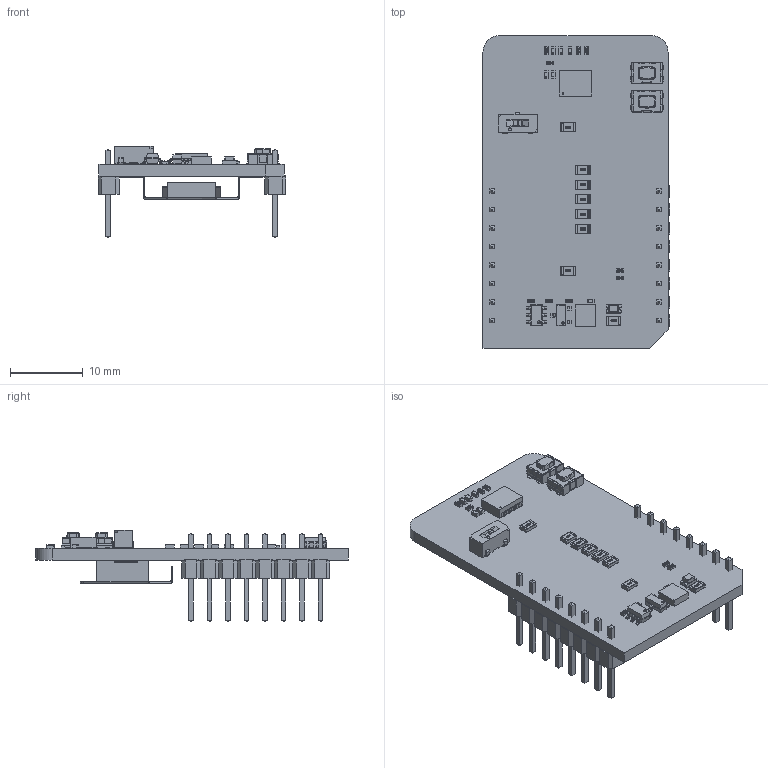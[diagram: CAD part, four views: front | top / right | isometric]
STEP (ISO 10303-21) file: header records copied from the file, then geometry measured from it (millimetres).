
FILE_DESCRIPTION(('Open CASCADE Model'),'2;1');
FILE_NAME('Open CASCADE Shape Model','2025-11-25T16:01:26',('Author'),( 'Open CASCADE'),'Open CASCADE STEP processor 7.5','Open CASCADE 7.5' ,'Unknown');
FILE_SCHEMA(('AUTOMOTIVE_DESIGN { 1 0 10303 214 1 1 1 1 }'));
Length unit declared in the file: millimetre
Products named in the file (61): PCB; Board; Open CASCADE STEP translator 7.5 2.1.1; U3; SON_131TFY_NXP; T2; User Library-Switch-CK-KMR2; User Library-Switch-CK-KMR2_Button; User Library-Switch-CK-KMR2_Boitier; User Library-Switch-CK-KMR2_Tole; User Library-Switch-CK-KMR2_Pads; T1; SW1; Cas-120a1; User Library-cas-120a1_cas-120 body; User Library-cas-120a1_cas-120 actuator; User Library-cas-120a1_lead; R9; User Library-R_0402; R7; R6; R5; R10; JP4; User Library-R_0805; JP3; JP5; JP6; JP7; JP2; C4; User Library-SMD CAPACITOR0402; C3; C2; BAT1; Battery Holder CR1220; U2; User Library-SOT23-6-2; U1; 7491637056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
Assembly tree (85 placements, depth 7):
  PCB
    Board
      Open CASCADE STEP translator 7.5 2.1.1
    U3
      SON_131TFY_NXP
    T2
      User Library-Switch-CK-KMR2
        User Library-Switch-CK-KMR2_Button
        User Library-Switch-CK-KMR2_Boitier
        User Library-Switch-CK-KMR2_Tole
        User Library-Switch-CK-KMR2_Pads
    T1
      User Library-Switch-CK-KMR2
        User Library-Switch-CK-KMR2_Button
        User Library-Switch-CK-KMR2_Boitier
        User Library-Switch-CK-KMR2_Tole
        User Library-Switch-CK-KMR2_Pads
    SW1
      Cas-120a1
        User Library-cas-120a1_cas-120 body
        User Library-cas-120a1_cas-120 actuator
        User Library-cas-120a1_lead  x3
    R9
      User Library-R_0402
    R7
      User Library-R_0402
    R6
      User Library-R_0402
    R5
      User Library-R_0402
    R10
      User Library-R_0402
    JP4
      User Library-R_0805
    JP3
      User Library-R_0805
    JP5
      User Library-R_0805
    JP6
      User Library-R_0805
    JP7
      User Library-R_0805
    JP2
      User Library-R_0805
    C4
      User Library-SMD CAPACITOR0402
    C3
      User Library-SMD CAPACITOR0402
    C2
      User Library-SMD CAPACITOR0402
    BAT1
      Battery Holder CR1220
    U2
      User Library-SOT23-6-2
    U1
      7491637056
        Extruded
    Q1
      SOT23-3
    R4
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Bounding box: 25.78 x 42.93 x 12.61 mm (x, y, z)
Volume: 2350.8 mm3; surface area: 4719.1 mm2
Topology: 125 solids, 126 shells, 3140 faces, 7876 edges, 5066 vertices
Faces by surface type: plane 2215, bspline 582, cylinder 270, sphere 56, cone 12, torus 5
Full cylindrical faces by diameter (mm): 0.175 x1
Entity records: 41169 total; most frequent: CARTESIAN_POINT 9837, ORIENTED_EDGE 5058, DIRECTION 4771, EDGE_CURVE 2550, LINE 2079, VECTOR 2079, VERTEX_POINT 1634, AXIS2_PLACEMENT_3D 1346
